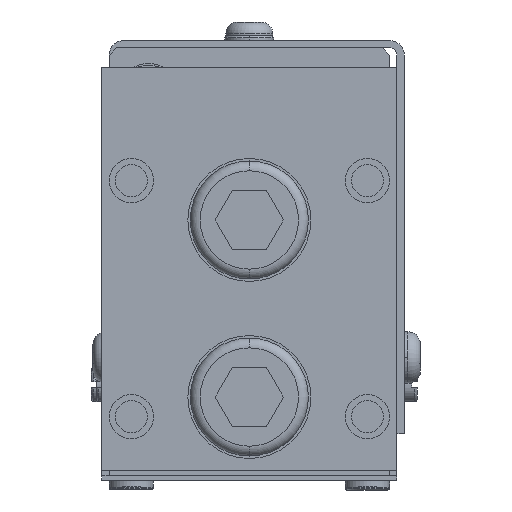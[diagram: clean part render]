
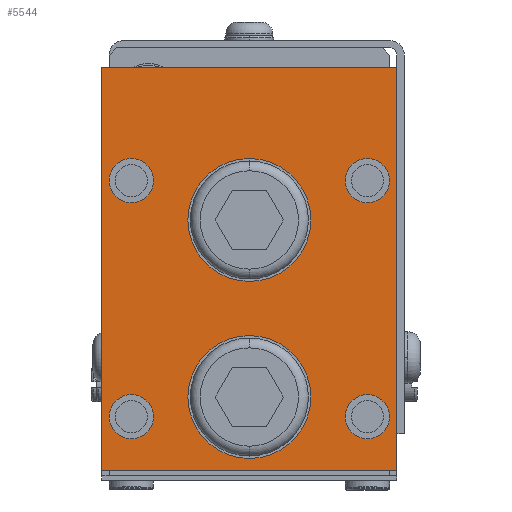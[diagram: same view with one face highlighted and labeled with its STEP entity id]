
A CAD part, front view. The second image highlights one B-rep face of the part: STEP entity #5544.
In plain terms, the highlighted planar face has unit normal (0, -1, 0).
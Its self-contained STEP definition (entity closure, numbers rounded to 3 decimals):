
#2875=CARTESIAN_POINT('',(-52.988,-193.,60.784));
#2876=VERTEX_POINT('',#2875);
#2892=CARTESIAN_POINT('',(-52.988,-193.,69.784));
#2893=VERTEX_POINT('',#2892);
#2900=CARTESIAN_POINT('',(-52.988,-193.,65.284));
#2901=DIRECTION('',(0.0,1.0,0.0));
#2902=DIRECTION('',(0.0,0.0,-1.0));
#2903=AXIS2_PLACEMENT_3D('',#2900,#2901,#2902);
#2904=CIRCLE('',#2903,4.5);
#2905=EDGE_CURVE('',#2876,#2893,#2904,.T.);
#2938=CARTESIAN_POINT('',(-4.988,-193.,12.784));
#2939=VERTEX_POINT('',#2938);
#2955=CARTESIAN_POINT('',(-4.988,-193.,21.784));
#2956=VERTEX_POINT('',#2955);
#2963=CARTESIAN_POINT('',(-4.988,-193.,17.284));
#2964=DIRECTION('',(0.0,1.0,0.0));
#2965=DIRECTION('',(0.0,0.0,-1.0));
#2966=AXIS2_PLACEMENT_3D('',#2963,#2964,#2965);
#2967=CIRCLE('',#2966,4.5);
#2968=EDGE_CURVE('',#2939,#2956,#2967,.T.);
#3001=CARTESIAN_POINT('',(-4.988,-193.,60.784));
#3002=VERTEX_POINT('',#3001);
#3018=CARTESIAN_POINT('',(-4.988,-193.,69.784));
#3019=VERTEX_POINT('',#3018);
#3026=CARTESIAN_POINT('',(-4.988,-193.,65.284));
#3027=DIRECTION('',(0.0,1.0,0.0));
#3028=DIRECTION('',(0.0,0.0,-1.0));
#3029=AXIS2_PLACEMENT_3D('',#3026,#3027,#3028);
#3030=CIRCLE('',#3029,4.5);
#3031=EDGE_CURVE('',#3002,#3019,#3030,.T.);
#3064=CARTESIAN_POINT('',(-52.988,-193.,12.784));
#3065=VERTEX_POINT('',#3064);
#3081=CARTESIAN_POINT('',(-52.988,-193.,21.784));
#3082=VERTEX_POINT('',#3081);
#3089=CARTESIAN_POINT('',(-52.988,-193.,17.284));
#3090=DIRECTION('',(0.0,1.0,0.0));
#3091=DIRECTION('',(0.0,0.0,-1.0));
#3092=AXIS2_PLACEMENT_3D('',#3089,#3090,#3091);
#3093=CIRCLE('',#3092,4.5);
#3094=EDGE_CURVE('',#3065,#3082,#3093,.T.);
#3127=CARTESIAN_POINT('',(-28.988,-193.,8.784));
#3128=VERTEX_POINT('',#3127);
#3144=CARTESIAN_POINT('',(-28.988,-193.,33.784));
#3145=VERTEX_POINT('',#3144);
#3152=CARTESIAN_POINT('',(-28.988,-193.,21.284));
#3153=DIRECTION('',(0.0,1.0,0.0));
#3154=DIRECTION('',(0.0,0.0,-1.0));
#3155=AXIS2_PLACEMENT_3D('',#3152,#3153,#3154);
#3156=CIRCLE('',#3155,12.5);
#3157=EDGE_CURVE('',#3128,#3145,#3156,.T.);
#3190=CARTESIAN_POINT('',(-28.988,-193.,44.784));
#3191=VERTEX_POINT('',#3190);
#3207=CARTESIAN_POINT('',(-28.988,-193.,69.784));
#3208=VERTEX_POINT('',#3207);
#3215=CARTESIAN_POINT('',(-28.988,-193.,57.284));
#3216=DIRECTION('',(0.0,1.0,0.0));
#3217=DIRECTION('',(0.0,0.0,-1.0));
#3218=AXIS2_PLACEMENT_3D('',#3215,#3216,#3217);
#3219=CIRCLE('',#3218,12.5);
#3220=EDGE_CURVE('',#3191,#3208,#3219,.T.);
#4640=CARTESIAN_POINT('',(-28.988,-193.,57.284));
#4641=DIRECTION('',(0.0,1.0,0.0));
#4642=DIRECTION('',(0.0,0.0,-1.0));
#4643=AXIS2_PLACEMENT_3D('',#4640,#4641,#4642);
#4644=CIRCLE('',#4643,12.5);
#4645=EDGE_CURVE('',#3208,#3191,#4644,.T.);
#4705=CARTESIAN_POINT('',(-28.988,-193.,21.284));
#4706=DIRECTION('',(0.0,1.0,0.0));
#4707=DIRECTION('',(0.0,0.0,-1.0));
#4708=AXIS2_PLACEMENT_3D('',#4705,#4706,#4707);
#4709=CIRCLE('',#4708,12.5);
#4710=EDGE_CURVE('',#3145,#3128,#4709,.T.);
#4744=CARTESIAN_POINT('',(-52.988,-193.,17.284));
#4745=DIRECTION('',(0.0,1.0,0.0));
#4746=DIRECTION('',(0.0,0.0,-1.0));
#4747=AXIS2_PLACEMENT_3D('',#4744,#4745,#4746);
#4748=CIRCLE('',#4747,4.5);
#4749=EDGE_CURVE('',#3082,#3065,#4748,.T.);
#4809=CARTESIAN_POINT('',(-4.988,-193.,65.284));
#4810=DIRECTION('',(0.0,1.0,0.0));
#4811=DIRECTION('',(0.0,0.0,-1.0));
#4812=AXIS2_PLACEMENT_3D('',#4809,#4810,#4811);
#4813=CIRCLE('',#4812,4.5);
#4814=EDGE_CURVE('',#3019,#3002,#4813,.T.);
#4874=CARTESIAN_POINT('',(-4.988,-193.,17.284));
#4875=DIRECTION('',(0.0,1.0,0.0));
#4876=DIRECTION('',(0.0,0.0,-1.0));
#4877=AXIS2_PLACEMENT_3D('',#4874,#4875,#4876);
#4878=CIRCLE('',#4877,4.5);
#4879=EDGE_CURVE('',#2956,#2939,#4878,.T.);
#4939=CARTESIAN_POINT('',(-52.988,-193.,65.284));
#4940=DIRECTION('',(0.0,1.0,0.0));
#4941=DIRECTION('',(0.0,0.0,-1.0));
#4942=AXIS2_PLACEMENT_3D('',#4939,#4940,#4941);
#4943=CIRCLE('',#4942,4.5);
#4944=EDGE_CURVE('',#2893,#2876,#4943,.T.);
#5374=CARTESIAN_POINT('',(-58.988,-193.,88.284));
#5375=VERTEX_POINT('',#5374);
#5376=CARTESIAN_POINT('',(1.012,-193.,88.284));
#5377=VERTEX_POINT('',#5376);
#5378=CARTESIAN_POINT('',(-58.988,-193.,88.284));
#5379=DIRECTION('',(1.0,0.0,0.0));
#5380=VECTOR('',#5379,60.0);
#5381=LINE('',#5378,#5380);
#5382=EDGE_CURVE('',#5375,#5377,#5381,.T.);
#5414=CARTESIAN_POINT('',(1.012,-193.,6.284));
#5415=VERTEX_POINT('',#5414);
#5416=CARTESIAN_POINT('',(1.012,-193.,88.284));
#5417=DIRECTION('',(0.0,0.0,-1.0));
#5418=VECTOR('',#5417,82.);
#5419=LINE('',#5416,#5418);
#5420=EDGE_CURVE('',#5377,#5415,#5419,.T.);
#5453=CARTESIAN_POINT('',(-58.988,-193.,6.284));
#5454=VERTEX_POINT('',#5453);
#5455=CARTESIAN_POINT('',(1.012,-193.,6.284));
#5456=DIRECTION('',(-1.0,0.0,0.0));
#5457=VECTOR('',#5456,60.0);
#5458=LINE('',#5455,#5457);
#5459=EDGE_CURVE('',#5415,#5454,#5458,.T.);
#5484=CARTESIAN_POINT('',(-58.988,-193.,6.284));
#5485=DIRECTION('',(0.0,0.0,1.0));
#5486=VECTOR('',#5485,82.);
#5487=LINE('',#5484,#5486);
#5488=EDGE_CURVE('',#5454,#5375,#5487,.T.);
#5509=CARTESIAN_POINT('',(-28.988,-193.,47.284));
#5510=DIRECTION('',(0.0,1.0,0.0));
#5511=DIRECTION('',(1.0,0.0,0.0));
#5512=AXIS2_PLACEMENT_3D('',#5509,#5510,#5511);
#5513=PLANE('',#5512);
#5514=ORIENTED_EDGE('',*,*,#5382,.F.);
#5515=ORIENTED_EDGE('',*,*,#5488,.F.);
#5516=ORIENTED_EDGE('',*,*,#5459,.F.);
#5517=ORIENTED_EDGE('',*,*,#5420,.F.);
#5518=EDGE_LOOP('',(#5514,#5515,#5516,#5517));
#5519=FACE_OUTER_BOUND('',#5518,.T.);
#5520=ORIENTED_EDGE('',*,*,#3220,.T.);
#5521=ORIENTED_EDGE('',*,*,#4645,.T.);
#5522=EDGE_LOOP('',(#5520,#5521));
#5523=FACE_BOUND('',#5522,.T.);
#5524=ORIENTED_EDGE('',*,*,#3157,.T.);
#5525=ORIENTED_EDGE('',*,*,#4710,.T.);
#5526=EDGE_LOOP('',(#5524,#5525));
#5527=FACE_BOUND('',#5526,.T.);
#5528=ORIENTED_EDGE('',*,*,#3094,.T.);
#5529=ORIENTED_EDGE('',*,*,#4749,.T.);
#5530=EDGE_LOOP('',(#5528,#5529));
#5531=FACE_BOUND('',#5530,.T.);
#5532=ORIENTED_EDGE('',*,*,#3031,.T.);
#5533=ORIENTED_EDGE('',*,*,#4814,.T.);
#5534=EDGE_LOOP('',(#5532,#5533));
#5535=FACE_BOUND('',#5534,.T.);
#5536=ORIENTED_EDGE('',*,*,#2968,.T.);
#5537=ORIENTED_EDGE('',*,*,#4879,.T.);
#5538=EDGE_LOOP('',(#5536,#5537));
#5539=FACE_BOUND('',#5538,.T.);
#5540=ORIENTED_EDGE('',*,*,#2905,.T.);
#5541=ORIENTED_EDGE('',*,*,#4944,.T.);
#5542=EDGE_LOOP('',(#5540,#5541));
#5543=FACE_BOUND('',#5542,.T.);
#5544=ADVANCED_FACE('',(#5519,#5523,#5527,#5531,#5535,#5539,#5543),#5513,.F.);
